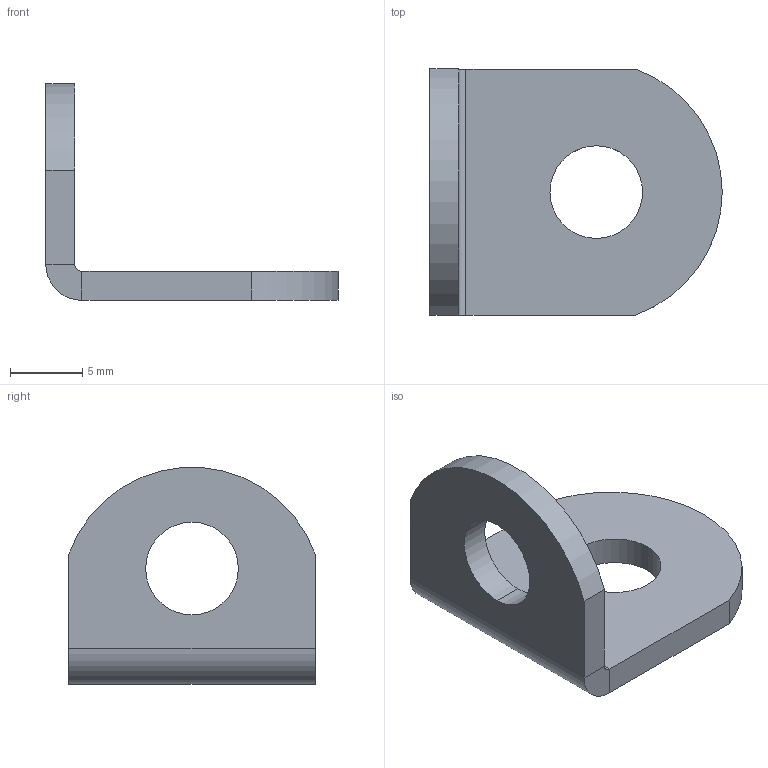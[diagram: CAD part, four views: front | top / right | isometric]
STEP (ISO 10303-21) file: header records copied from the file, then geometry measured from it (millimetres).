
FILE_DESCRIPTION (( 'STEP AP214' ), '1' );
FILE_NAME ('1C.906.002.STEP', '2016-08-18T06:32:55', ( 'RST-Dolba' ), ( '' ), 'SwSTEP 2.0', 'SolidWorks 2015', '' );
FILE_SCHEMA (( 'AUTOMOTIVE_DESIGN' ));
Length unit declared in the file: millimetre
Products named in the file (1): 1C.906.002
Bounding box: 20.2 x 17 x 14.97 mm (x, y, z)
Volume: 867.7 mm3; surface area: 1119 mm2
Topology: 1 solids, 1 shells, 19 faces, 43 edges, 26 vertices
Faces by surface type: plane 10, cylinder 9
Entity records: 573 total; most frequent: DIRECTION 101, CARTESIAN_POINT 89, ORIENTED_EDGE 86, EDGE_CURVE 43, AXIS2_PLACEMENT_3D 38, VERTEX_POINT 26, VECTOR 25, LINE 25
